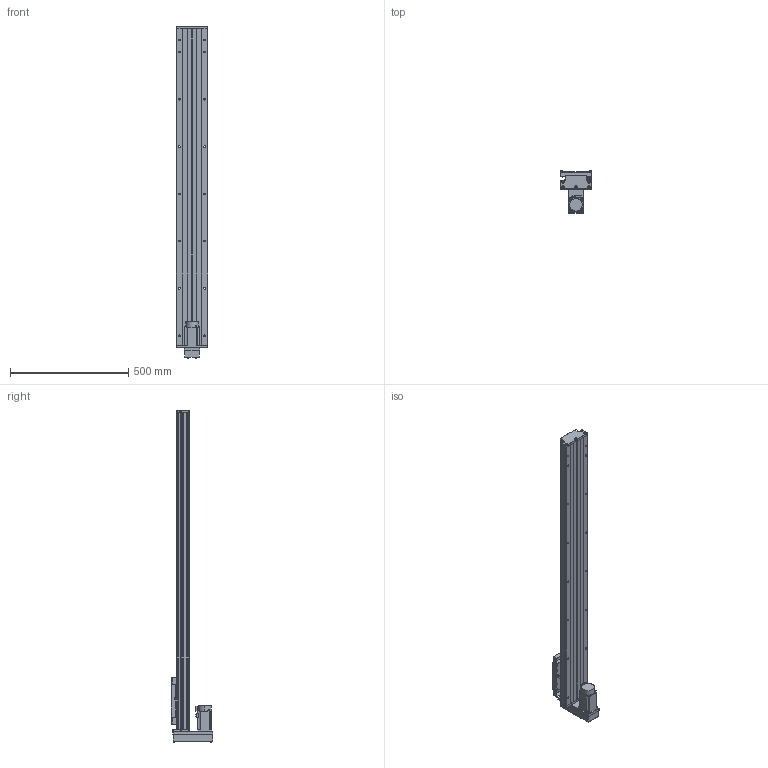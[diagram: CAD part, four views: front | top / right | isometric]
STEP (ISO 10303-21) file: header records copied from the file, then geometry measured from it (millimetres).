
FILE_DESCRIPTION (( 'STEP AP203' ), '1' );
FILE_NAME ('GTH14-1100-BM-M40-C4.step', '2023-06-30T08:44:17', ( '微软用户' ), ( '微软中国' ), 'SwSTEP 2.0', 'SolidWorks 2020', '' );
FILE_SCHEMA (( 'CONFIG_CONTROL_DESIGN' ));
Length unit declared in the file: millimetre
Products named in the file (19): GTH14-001_1100; EE_SX911P_R; HG-KN43J-S100; GTH14-002_GTH14-002; CTHA60-016; GBT 70.2-M4¡Á35_M4¡Á35; GTH14-004; GBT 70.1-M3℅5; GTH14-015-2_CTHA86-015-2; GTH14-005; GBT77-2000 M3×3; GTH14-033; GB1155-6X6; GTH14-031; GTH14-1100-BM-M40-C4; GBT70.1 M5℅16; GBT 70.2-M3¡Á5_M3¡Á6; CTHA60-017; す晦芛蹟隊 M3℅5
Assembly tree (58 placements, depth 2):
  GTH14-1100-BM-M40-C4
    GTH14-001_1100
    GTH14-002_GTH14-002
    GTH14-004
    GTH14-005
    GB1155-6X6  x2
    GBT70.1 M5℅16  x10
    CTHA60-017  x3
    EE_SX911P_R  x3
    CTHA60-016  x2
    GBT 70.1-M3℅5  x6
    GBT77-2000 M3×3  x6
    GTH14-031
    GBT 70.2-M3¡Á5_M3¡Á6  x8
    す晦芛蹟隊 M3℅5  x6
    HG-KN43J-S100
    GBT 70.2-M4¡Á35_M4¡Á35  x4
    GTH14-015-2_CTHA86-015-2
    GTH14-033
Bounding box: 135 x 177.5 x 1404.2 mm (x, y, z)
Volume: 7443374.4 mm3; surface area: 1188438.2 mm2
Topology: 61 solids, 61 shells, 2483 faces, 5905 edges, 3642 vertices
Faces by surface type: plane 1313, cylinder 680, cone 314, torus 124, sphere 32, bspline 20
Entity records: 45082 total; most frequent: CARTESIAN_POINT 10007, DIRECTION 6669, ORIENTED_EDGE 6500, EDGE_CURVE 3250, AXIS2_PLACEMENT_3D 2296, LINE 2077, VECTOR 2077, VERTEX_POINT 2060
